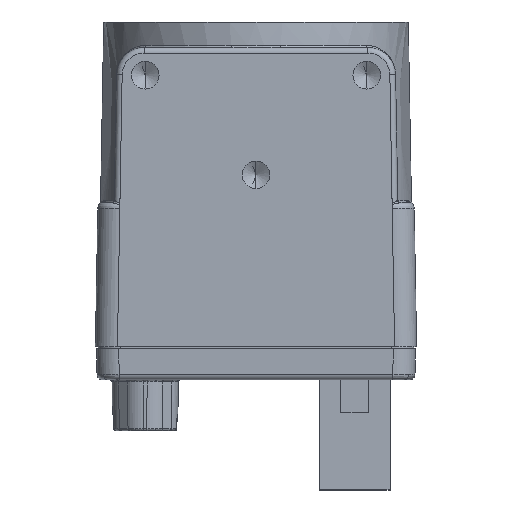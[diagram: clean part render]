
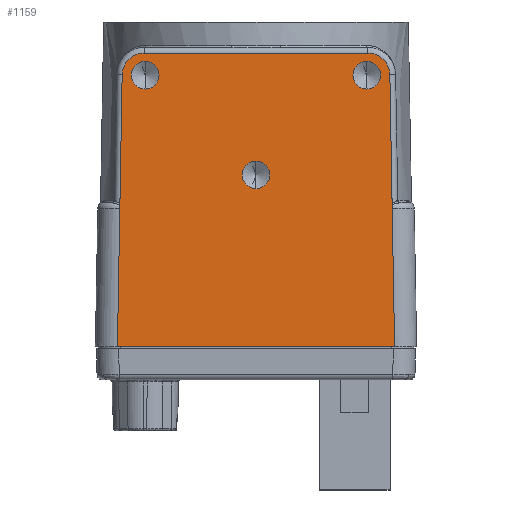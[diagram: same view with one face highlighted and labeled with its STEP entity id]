
A CAD part, front view. The second image highlights one B-rep face of the part: STEP entity #1159.
In plain terms, the highlighted planar face has unit normal (0, -1, 0).
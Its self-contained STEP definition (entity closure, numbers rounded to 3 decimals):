
#579 = VERTEX_POINT ( 'NONE', #51137 ) ;
#805 = VERTEX_POINT ( 'NONE', #17340 ) ;
#1159 = ADVANCED_FACE ( 'NONE', ( #13912, #44526, #62426, #56830 ), #56026, .T. ) ;
#1203 = ORIENTED_EDGE ( 'NONE', *, *, #44795, .F. ) ;
#1821 = AXIS2_PLACEMENT_3D ( 'NONE', #70643, #3009, #15333 ) ;
#1862 = CIRCLE ( 'NONE', #38713, 1.25 ) ;
#3009 = DIRECTION ( 'NONE',  ( 0., -1., 0. ) ) ;
#3802 = DIRECTION ( 'NONE',  ( 0., 1., 0. ) ) ;
#4477 = EDGE_LOOP ( 'NONE', ( #40282, #26613 ) ) ;
#4771 = VERTEX_POINT ( 'NONE', #44162 ) ;
#5728 = CIRCLE ( 'NONE', #1821, 1.25 ) ;
#5843 = LINE ( 'NONE', #30084, #40976 ) ;
#6087 = VERTEX_POINT ( 'NONE', #49046 ) ;
#6161 = CARTESIAN_POINT ( 'NONE',  ( -12.083, -14.5, -4.465 ) ) ;
#6592 = EDGE_CURVE ( 'NONE', #70454, #4771, #1862, .T. ) ;
#6795 = LINE ( 'NONE', #31025, #71337 ) ;
#8614 = EDGE_CURVE ( 'NONE', #13353, #56980, #38027, .T. ) ;
#9439 = VERTEX_POINT ( 'NONE', #15102 ) ;
#10281 = EDGE_CURVE ( 'NONE', #579, #40365, #19144, .T. ) ;
#10347 = DIRECTION ( 'NONE',  ( -0.017, 0., -1. ) ) ;
#10864 = CIRCLE ( 'NONE', #50193, 1.25 ) ;
#12588 = EDGE_CURVE ( 'NONE', #47269, #40365, #44184, .T. ) ;
#12947 = EDGE_CURVE ( 'NONE', #37719, #13353, #59755, .T. ) ;
#13101 = CIRCLE ( 'NONE', #30966, 2. ) ;
#13232 = EDGE_CURVE ( 'NONE', #47269, #9439, #77575, .T. ) ;
#13353 = VERTEX_POINT ( 'NONE', #61599 ) ;
#13532 = DIRECTION ( 'NONE',  ( 0., -1., 0. ) ) ;
#13603 = CARTESIAN_POINT ( 'NONE',  ( 10., -14.5, -4.5 ) ) ;
#13912 = FACE_BOUND ( 'NONE', #29759, .T. ) ;
#14673 = ORIENTED_EDGE ( 'NONE', *, *, #12947, .T. ) ;
#15102 = CARTESIAN_POINT ( 'NONE',  ( -12.293, -14.5, -16.5 ) ) ;
#15107 = VECTOR ( 'NONE', #19564, 1000. ) ;
#15333 = DIRECTION ( 'NONE',  ( 0., 0., -1. ) ) ;
#16069 = CIRCLE ( 'NONE', #47765, 1.25 ) ;
#16525 = DIRECTION ( 'NONE',  ( 1., 0., 0. ) ) ;
#17340 = CARTESIAN_POINT ( 'NONE',  ( 10., -14.5, -3.25 ) ) ;
#17349 = CARTESIAN_POINT ( 'NONE',  ( 10., -14.5, -5.75 ) ) ;
#17908 = ORIENTED_EDGE ( 'NONE', *, *, #44993, .F. ) ;
#18284 = DIRECTION ( 'NONE',  ( 0., -1., 0. ) ) ;
#19102 = CARTESIAN_POINT ( 'NONE',  ( 0., -14.5, 0.3 ) ) ;
#19144 = LINE ( 'NONE', #43401, #40918 ) ;
#19497 = DIRECTION ( 'NONE',  ( 1., 0., 0. ) ) ;
#19564 = DIRECTION ( 'NONE',  ( 1., 0., 0. ) ) ;
#20896 = EDGE_CURVE ( 'NONE', #42708, #29888, #34264, .T. ) ;
#22265 = DIRECTION ( 'NONE',  ( 0., 0., -1. ) ) ;
#23464 = CARTESIAN_POINT ( 'NONE',  ( -12., -14.5, 0.3 ) ) ;
#23912 = EDGE_LOOP ( 'NONE', ( #14673, #44165, #66400, #1203, #70339, #45437, #73607, #59708 ) ) ;
#24051 = DIRECTION ( 'NONE',  ( 0., -1., 0. ) ) ;
#26613 = ORIENTED_EDGE ( 'NONE', *, *, #64713, .F. ) ;
#26671 = DIRECTION ( 'NONE',  ( 0., 0., -1. ) ) ;
#29226 = AXIS2_PLACEMENT_3D ( 'NONE', #44944, #56477, #26671 ) ;
#29759 = EDGE_LOOP ( 'NONE', ( #31514, #59921 ) ) ;
#29888 = VERTEX_POINT ( 'NONE', #41777 ) ;
#30084 = CARTESIAN_POINT ( 'NONE',  ( -12., -14.5, 0.3 ) ) ;
#30627 = DIRECTION ( 'NONE',  ( -0.017, 0., 1. ) ) ;
#30781 = DIRECTION ( 'NONE',  ( 0., 0., -1. ) ) ;
#30966 = AXIS2_PLACEMENT_3D ( 'NONE', #66883, #36584, #72074 ) ;
#31025 = CARTESIAN_POINT ( 'NONE',  ( 12., -14.5, 0.3 ) ) ;
#31514 = ORIENTED_EDGE ( 'NONE', *, *, #65405, .F. ) ;
#33703 = EDGE_CURVE ( 'NONE', #56980, #6087, #6795, .T. ) ;
#34264 = CIRCLE ( 'NONE', #29226, 1.25 ) ;
#36584 = DIRECTION ( 'NONE',  ( 0., 1., 0. ) ) ;
#37020 = CARTESIAN_POINT ( 'NONE',  ( 0., -14.5, -14.75 ) ) ;
#37719 = VERTEX_POINT ( 'NONE', #63261 ) ;
#37830 = CARTESIAN_POINT ( 'NONE',  ( -14.5, -14.5, -29. ) ) ;
#37847 = DIRECTION ( 'NONE',  ( 0., 0., -1. ) ) ;
#38027 = LINE ( 'NONE', #67105, #60053 ) ;
#38713 = AXIS2_PLACEMENT_3D ( 'NONE', #66227, #24051, #30781 ) ;
#39278 = VECTOR ( 'NONE', #10347, 1000. ) ;
#40282 = ORIENTED_EDGE ( 'NONE', *, *, #66275, .F. ) ;
#40365 = VERTEX_POINT ( 'NONE', #68236 ) ;
#40398 = AXIS2_PLACEMENT_3D ( 'NONE', #64627, #3802, #16525 ) ;
#40918 = VECTOR ( 'NONE', #67670, 1000. ) ;
#40976 = VECTOR ( 'NONE', #54311, 1000. ) ;
#41082 = AXIS2_PLACEMENT_3D ( 'NONE', #52462, #70414, #22265 ) ;
#41777 = CARTESIAN_POINT ( 'NONE',  ( 0., -14.5, -12.25 ) ) ;
#42708 = VERTEX_POINT ( 'NONE', #37020 ) ;
#43401 = CARTESIAN_POINT ( 'NONE',  ( -12., -14.5, -2.5 ) ) ;
#44162 = CARTESIAN_POINT ( 'NONE',  ( -10., -14.5, -5.75 ) ) ;
#44165 = ORIENTED_EDGE ( 'NONE', *, *, #8614, .T. ) ;
#44184 = CIRCLE ( 'NONE', #40398, 2. ) ;
#44526 = FACE_BOUND ( 'NONE', #4477, .T. ) ;
#44795 = EDGE_CURVE ( 'NONE', #579, #6087, #13101, .T. ) ;
#44944 = CARTESIAN_POINT ( 'NONE',  ( 0., -14.5, -13.5 ) ) ;
#44993 = EDGE_CURVE ( 'NONE', #29888, #42708, #48702, .T. ) ;
#45437 = ORIENTED_EDGE ( 'NONE', *, *, #12588, .F. ) ;
#47269 = VERTEX_POINT ( 'NONE', #6161 ) ;
#47765 = AXIS2_PLACEMENT_3D ( 'NONE', #65626, #18284, #66812 ) ;
#48120 = EDGE_LOOP ( 'NONE', ( #77169, #17908 ) ) ;
#48408 = CARTESIAN_POINT ( 'NONE',  ( 12.293, -14.5, -16.5 ) ) ;
#48702 = CIRCLE ( 'NONE', #41082, 1.25 ) ;
#49046 = CARTESIAN_POINT ( 'NONE',  ( 12.083, -14.5, -4.465 ) ) ;
#49947 = DIRECTION ( 'NONE',  ( -0.017, 0., 1. ) ) ;
#50193 = AXIS2_PLACEMENT_3D ( 'NONE', #13603, #68103, #37847 ) ;
#51137 = CARTESIAN_POINT ( 'NONE',  ( 10.083, -14.5, -2.5 ) ) ;
#51259 = VERTEX_POINT ( 'NONE', #17349 ) ;
#52462 = CARTESIAN_POINT ( 'NONE',  ( 0., -14.5, -13.5 ) ) ;
#52872 = AXIS2_PLACEMENT_3D ( 'NONE', #19102, #13532, #19497 ) ;
#54311 = DIRECTION ( 'NONE',  ( -0.017, 0., -1. ) ) ;
#56026 = PLANE ( 'NONE',  #52872 ) ;
#56477 = DIRECTION ( 'NONE',  ( 0., -1., 0. ) ) ;
#56830 = FACE_OUTER_BOUND ( 'NONE', #23912, .T. ) ;
#56980 = VERTEX_POINT ( 'NONE', #48408 ) ;
#59708 = ORIENTED_EDGE ( 'NONE', *, *, #61629, .T. ) ;
#59755 = LINE ( 'NONE', #37830, #15107 ) ;
#59921 = ORIENTED_EDGE ( 'NONE', *, *, #6592, .F. ) ;
#60053 = VECTOR ( 'NONE', #49947, 1000. ) ;
#61599 = CARTESIAN_POINT ( 'NONE',  ( 12.511, -14.5, -29. ) ) ;
#61629 = EDGE_CURVE ( 'NONE', #9439, #37719, #5843, .T. ) ;
#62426 = FACE_BOUND ( 'NONE', #48120, .T. ) ;
#63261 = CARTESIAN_POINT ( 'NONE',  ( -12.511, -14.5, -29. ) ) ;
#64627 = CARTESIAN_POINT ( 'NONE',  ( -10.083, -14.5, -4.5 ) ) ;
#64713 = EDGE_CURVE ( 'NONE', #805, #51259, #5728, .T. ) ;
#65405 = EDGE_CURVE ( 'NONE', #4771, #70454, #16069, .T. ) ;
#65626 = CARTESIAN_POINT ( 'NONE',  ( -10., -14.5, -4.5 ) ) ;
#66227 = CARTESIAN_POINT ( 'NONE',  ( -10., -14.5, -4.5 ) ) ;
#66275 = EDGE_CURVE ( 'NONE', #51259, #805, #10864, .T. ) ;
#66400 = ORIENTED_EDGE ( 'NONE', *, *, #33703, .T. ) ;
#66812 = DIRECTION ( 'NONE',  ( 0., 0., -1. ) ) ;
#66883 = CARTESIAN_POINT ( 'NONE',  ( 10.083, -14.5, -4.5 ) ) ;
#67105 = CARTESIAN_POINT ( 'NONE',  ( 12., -14.5, 0.3 ) ) ;
#67670 = DIRECTION ( 'NONE',  ( -1., 0., 0. ) ) ;
#68103 = DIRECTION ( 'NONE',  ( 0., -1., 0. ) ) ;
#68236 = CARTESIAN_POINT ( 'NONE',  ( -10.083, -14.5, -2.5 ) ) ;
#70339 = ORIENTED_EDGE ( 'NONE', *, *, #10281, .T. ) ;
#70414 = DIRECTION ( 'NONE',  ( 0., -1., 0. ) ) ;
#70454 = VERTEX_POINT ( 'NONE', #70870 ) ;
#70643 = CARTESIAN_POINT ( 'NONE',  ( 10., -14.5, -4.5 ) ) ;
#70870 = CARTESIAN_POINT ( 'NONE',  ( -10., -14.5, -3.25 ) ) ;
#71337 = VECTOR ( 'NONE', #30627, 1000. ) ;
#72074 = DIRECTION ( 'NONE',  ( 1., 0., 0. ) ) ;
#73607 = ORIENTED_EDGE ( 'NONE', *, *, #13232, .T. ) ;
#77169 = ORIENTED_EDGE ( 'NONE', *, *, #20896, .F. ) ;
#77575 = LINE ( 'NONE', #23464, #39278 ) ;
